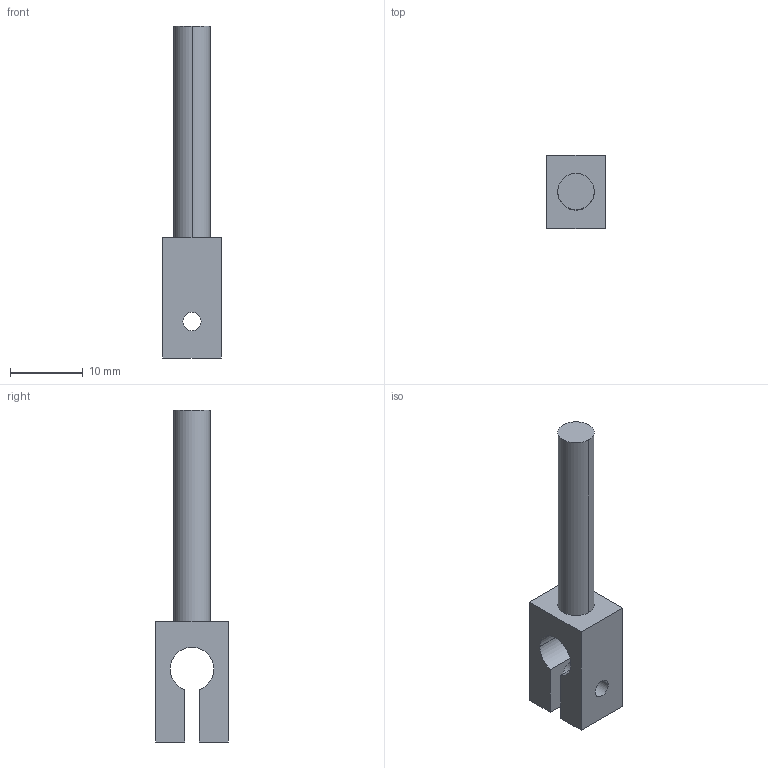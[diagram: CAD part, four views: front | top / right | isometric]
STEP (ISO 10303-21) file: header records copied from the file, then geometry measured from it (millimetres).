
FILE_DESCRIPTION (( 'STEP AP203' ), '1' );
FILE_NAME ('____.stp_Défaut_sldprt.STEP', '2024-11-30T15:38:47', ( '' ), ( '' ), 'SwSTEP 2.0', 'SolidWorks 2023', '' );
FILE_SCHEMA (( 'CONFIG_CONTROL_DESIGN' ));
Length unit declared in the file: millimetre
Products named in the file (1): ____.stp_Défaut_sldprt
Bounding box: 8 x 10 x 45.5 mm (x, y, z)
Volume: 1470.6 mm3; surface area: 1417.3 mm2
Topology: 1 solids, 1 shells, 22 faces, 54 edges, 36 vertices
Faces by surface type: cylinder 11, plane 11
Entity records: 745 total; most frequent: DIRECTION 122, CARTESIAN_POINT 113, ORIENTED_EDGE 108, EDGE_CURVE 54, AXIS2_PLACEMENT_3D 45, VERTEX_POINT 36, LINE 32, VECTOR 32
